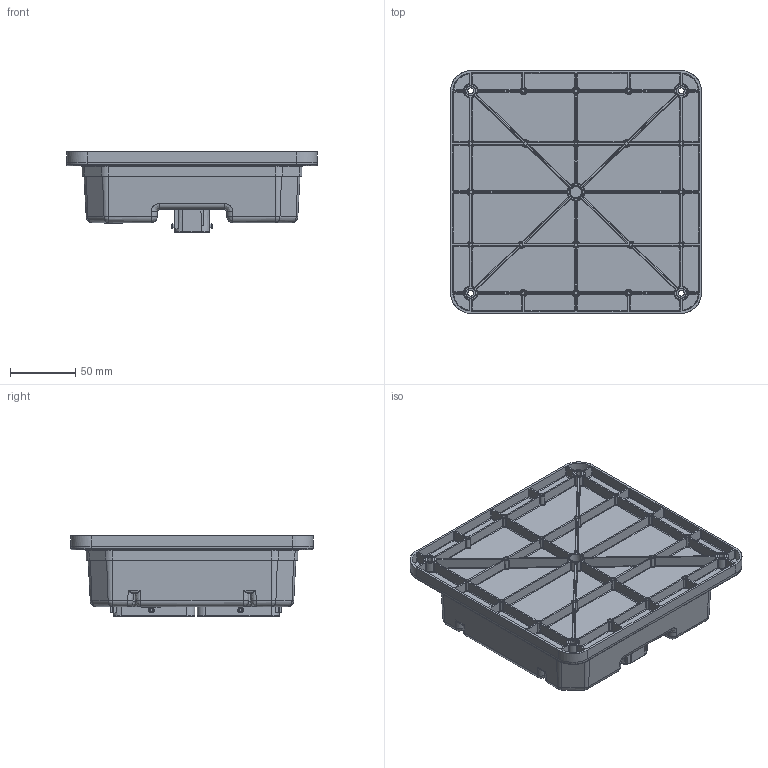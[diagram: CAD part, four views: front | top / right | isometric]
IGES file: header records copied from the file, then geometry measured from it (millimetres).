
Start section: SolidWorks IGES file using analytic representation for surfaces
Global section: file name: C:\Users\csiebert\Desktop\CXM-110.IGS; native system: SolidWorks 2015; preprocessor: SolidWorks 2015; author: csiebert; date: 161011.103416; units: inch
Bounding box: 193.01 x 186.72 x 61.89 mm (x, y, z)
Surface area: 160890.2 mm2 (no closed solid volume)
Topology: 0 solids, 0 shells, 7368 faces, 67190 edges, 86591 vertices
Faces by surface type: bspline 6478, revolution 890
